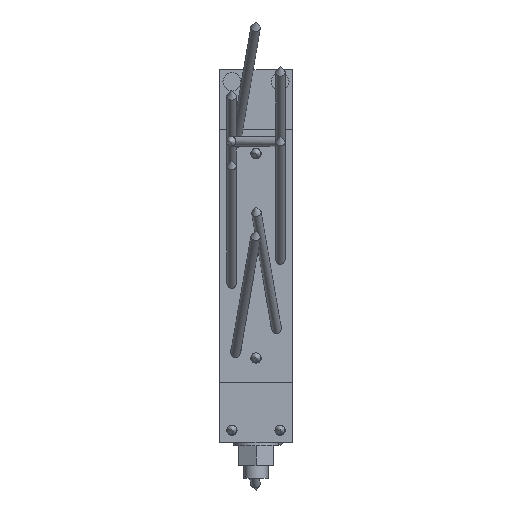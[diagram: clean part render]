
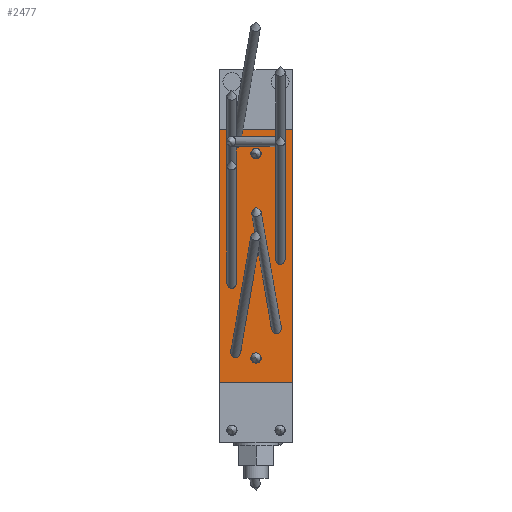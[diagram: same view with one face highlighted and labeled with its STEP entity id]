
A CAD part, top view. The second image highlights one B-rep face of the part: STEP entity #2477.
In plain terms, the highlighted planar face has unit normal (0, 0, 1) as drawn and (0, 0, -1) by its records, which use the part's own axes.
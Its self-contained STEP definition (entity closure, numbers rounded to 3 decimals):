
#244=CIRCLE('',#2929,4.25);
#245=CIRCLE('',#2930,4.25);
#363=LINE('',#4073,#575);
#365=LINE('',#4097,#577);
#366=LINE('',#4099,#578);
#367=LINE('',#4101,#579);
#575=VECTOR('',#3272,1000.);
#577=VECTOR('',#3296,1000.);
#578=VECTOR('',#3297,1000.);
#579=VECTOR('',#3298,1000.);
#813=ORIENTED_EDGE('',*,*,#1405,.F.);
#814=ORIENTED_EDGE('',*,*,#1406,.F.);
#815=ORIENTED_EDGE('',*,*,#1407,.F.);
#816=ORIENTED_EDGE('',*,*,#1408,.F.);
#817=ORIENTED_EDGE('',*,*,#1409,.F.);
#818=ORIENTED_EDGE('',*,*,#1410,.F.);
#819=ORIENTED_EDGE('',*,*,#1411,.F.);
#820=ORIENTED_EDGE('',*,*,#1412,.F.);
#821=ORIENTED_EDGE('',*,*,#1413,.F.);
#822=ORIENTED_EDGE('',*,*,#1414,.F.);
#823=ORIENTED_EDGE('',*,*,#1415,.F.);
#824=ORIENTED_EDGE('',*,*,#1416,.T.);
#825=ORIENTED_EDGE('',*,*,#1417,.T.);
#826=ORIENTED_EDGE('',*,*,#1403,.F.);
#1403=EDGE_CURVE('',#1696,#1697,#363,.T.);
#1405=EDGE_CURVE('',#1698,#1698,#1876,.T.);
#1406=EDGE_CURVE('',#1699,#1699,#1877,.T.);
#1407=EDGE_CURVE('',#1700,#1700,#1878,.T.);
#1408=EDGE_CURVE('',#1701,#1701,#1879,.T.);
#1409=EDGE_CURVE('',#1702,#1702,#1880,.T.);
#1410=EDGE_CURVE('',#1703,#1703,#1881,.T.);
#1411=EDGE_CURVE('',#1704,#1704,#1882,.T.);
#1412=EDGE_CURVE('',#1705,#1705,#1883,.T.);
#1413=EDGE_CURVE('',#1706,#1706,#244,.T.);
#1414=EDGE_CURVE('',#1707,#1707,#245,.T.);
#1415=EDGE_CURVE('',#1708,#1696,#365,.T.);
#1416=EDGE_CURVE('',#1708,#1709,#366,.T.);
#1417=EDGE_CURVE('',#1709,#1697,#367,.T.);
#1696=VERTEX_POINT('',#4072);
#1697=VERTEX_POINT('',#4074);
#1698=VERTEX_POINT('',#4078);
#1699=VERTEX_POINT('',#4080);
#1700=VERTEX_POINT('',#4082);
#1701=VERTEX_POINT('',#4084);
#1702=VERTEX_POINT('',#4086);
#1703=VERTEX_POINT('',#4088);
#1704=VERTEX_POINT('',#4090);
#1705=VERTEX_POINT('',#4092);
#1706=VERTEX_POINT('',#4094);
#1707=VERTEX_POINT('',#4096);
#1708=VERTEX_POINT('',#4098);
#1709=VERTEX_POINT('',#4100);
#1876=ELLIPSE('',#2921,6.103,4.25);
#1877=ELLIPSE('',#2922,6.103,4.25);
#1878=ELLIPSE('',#2923,6.103,4.25);
#1879=ELLIPSE('',#2924,6.01,4.25);
#1880=ELLIPSE('',#2925,6.01,4.25);
#1881=ELLIPSE('',#2926,6.01,4.25);
#1882=ELLIPSE('',#2927,6.01,4.25);
#1883=ELLIPSE('',#2928,4.316,4.25);
#1909=EDGE_LOOP('',(#813));
#1910=EDGE_LOOP('',(#814));
#1911=EDGE_LOOP('',(#815));
#1912=EDGE_LOOP('',(#816));
#1913=EDGE_LOOP('',(#817));
#1914=EDGE_LOOP('',(#818));
#1915=EDGE_LOOP('',(#819));
#1916=EDGE_LOOP('',(#820));
#1917=EDGE_LOOP('',(#821));
#1918=EDGE_LOOP('',(#822));
#1919=EDGE_LOOP('',(#823,#824,#825,#826));
#2153=FACE_BOUND('',#1909,.T.);
#2154=FACE_BOUND('',#1910,.T.);
#2155=FACE_BOUND('',#1911,.T.);
#2156=FACE_BOUND('',#1912,.T.);
#2157=FACE_BOUND('',#1913,.T.);
#2158=FACE_BOUND('',#1914,.T.);
#2159=FACE_BOUND('',#1915,.T.);
#2160=FACE_BOUND('',#1916,.T.);
#2161=FACE_BOUND('',#1917,.T.);
#2162=FACE_BOUND('',#1918,.T.);
#2163=FACE_BOUND('',#1919,.T.);
#2387=PLANE('',#2920);
#2477=ADVANCED_FACE('',(#2153,#2154,#2155,#2156,#2157,#2158,#2159,#2160,
#2161,#2162,#2163),#2387,.T.);
#2920=AXIS2_PLACEMENT_3D('',#4076,#3274,#3275);
#2921=AXIS2_PLACEMENT_3D('',#4077,#3276,#3277);
#2922=AXIS2_PLACEMENT_3D('',#4079,#3278,#3279);
#2923=AXIS2_PLACEMENT_3D('',#4081,#3280,#3281);
#2924=AXIS2_PLACEMENT_3D('',#4083,#3282,#3283);
#2925=AXIS2_PLACEMENT_3D('',#4085,#3284,#3285);
#2926=AXIS2_PLACEMENT_3D('',#4087,#3286,#3287);
#2927=AXIS2_PLACEMENT_3D('',#4089,#3288,#3289);
#2928=AXIS2_PLACEMENT_3D('',#4091,#3290,#3291);
#2929=AXIS2_PLACEMENT_3D('',#4093,#3292,#3293);
#2930=AXIS2_PLACEMENT_3D('',#4095,#3294,#3295);
#3272=DIRECTION('',(0.,-1.,0.));
#3274=DIRECTION('',(0.,0.,-1.));
#3275=DIRECTION('',(-1.,0.,0.));
#3276=DIRECTION('',(0.,0.,-1.));
#3277=DIRECTION('',(-0.171,0.985,0.));
#3278=DIRECTION('',(0.,0.,-1.));
#3279=DIRECTION('',(-0.171,0.985,0.));
#3280=DIRECTION('',(0.,0.,-1.));
#3281=DIRECTION('',(0.171,0.985,0.));
#3282=DIRECTION('',(0.,0.,-1.));
#3283=DIRECTION('',(0.,1.,0.));
#3284=DIRECTION('',(0.,0.,-1.));
#3285=DIRECTION('',(0.,1.,0.));
#3286=DIRECTION('',(0.,0.,-1.));
#3287=DIRECTION('',(0.,1.,0.));
#3288=DIRECTION('',(0.,0.,-1.));
#3289=DIRECTION('',(0.,1.,0.));
#3290=DIRECTION('',(0.,0.,-1.));
#3291=DIRECTION('',(1.,0.,0.));
#3292=DIRECTION('',(0.,0.,-1.));
#3293=DIRECTION('',(-1.,0.,0.));
#3294=DIRECTION('',(0.,0.,-1.));
#3295=DIRECTION('',(-1.,0.,0.));
#3296=DIRECTION('',(-1.,0.,0.));
#3297=DIRECTION('',(0.,-1.,0.));
#3298=DIRECTION('',(-1.,0.,0.));
#4072=CARTESIAN_POINT('',(0.,230.,0.));
#4073=CARTESIAN_POINT('',(0.,250.,0.));
#4074=CARTESIAN_POINT('',(0.,20.,0.));
#4076=CARTESIAN_POINT('',(0.,250.,0.));
#4077=CARTESIAN_POINT('',(13.277,29.693,0.));
#4078=CARTESIAN_POINT('',(12.232,35.707,0.));
#4079=CARTESIAN_POINT('',(13.277,203.691,0.));
#4080=CARTESIAN_POINT('',(12.232,209.704,0.));
#4081=CARTESIAN_POINT('',(46.723,183.694,0.));
#4082=CARTESIAN_POINT('',(47.768,189.707,0.));
#4083=CARTESIAN_POINT('',(9.75,146.,0.));
#4084=CARTESIAN_POINT('',(9.75,152.01,0.));
#4085=CARTESIAN_POINT('',(50.25,126.,0.));
#4086=CARTESIAN_POINT('',(50.25,132.01,0.));
#4087=CARTESIAN_POINT('',(50.25,68.,0.));
#4088=CARTESIAN_POINT('',(50.25,74.01,0.));
#4089=CARTESIAN_POINT('',(9.75,88.,0.));
#4090=CARTESIAN_POINT('',(9.75,94.01,0.));
#4091=CARTESIAN_POINT('',(46.723,30.,0.));
#4092=CARTESIAN_POINT('',(51.039,30.,0.));
#4093=CARTESIAN_POINT('',(30.,210.,0.));
#4094=CARTESIAN_POINT('',(25.75,210.,0.));
#4095=CARTESIAN_POINT('',(30.,40.,0.));
#4096=CARTESIAN_POINT('',(25.75,40.,0.));
#4097=CARTESIAN_POINT('',(100.,230.,0.));
#4098=CARTESIAN_POINT('',(60.,230.,0.));
#4099=CARTESIAN_POINT('',(60.,250.,0.));
#4100=CARTESIAN_POINT('',(60.,20.,0.));
#4101=CARTESIAN_POINT('',(357.205,20.,0.));
